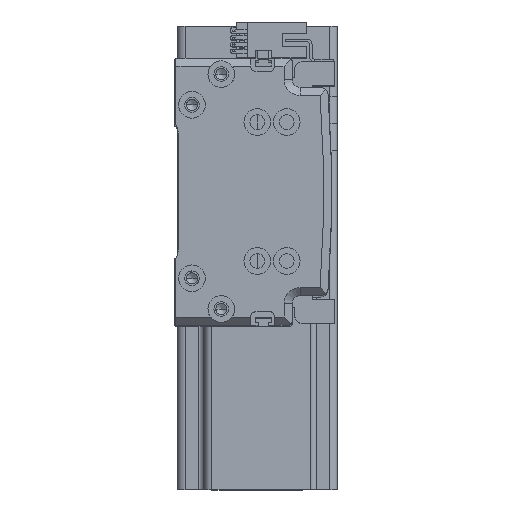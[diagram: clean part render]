
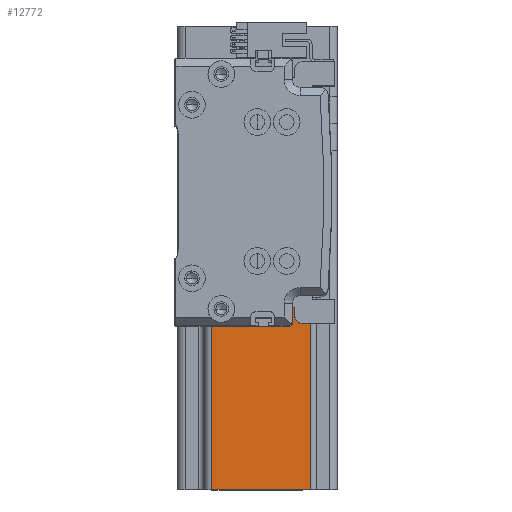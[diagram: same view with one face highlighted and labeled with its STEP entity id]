
A CAD part, top view. The second image highlights one B-rep face of the part: STEP entity #12772.
In plain terms, the highlighted planar face has unit normal (0, 0, 1) as drawn and (-1, 0, 0) by its records, which use the part's own axes.
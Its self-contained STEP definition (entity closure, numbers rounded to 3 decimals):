
#943 = EDGE_LOOP ( 'NONE', ( #35126, #3773, #40235, #42638, #19698, #16832, #11987, #19144 ) ) ;
#1574 = EDGE_CURVE ( 'NONE', #20450, #45647, #2723, .T. ) ;
#2452 = EDGE_CURVE ( 'NONE', #41303, #40428, #20360, .T. ) ;
#2723 = LINE ( 'NONE', #11466, #39284 ) ;
#3773 = ORIENTED_EDGE ( 'NONE', *, *, #30034, .T. ) ;
#4308 = PLANE ( 'NONE',  #18426 ) ;
#4468 = VECTOR ( 'NONE', #33380, 1000. ) ;
#4492 = VECTOR ( 'NONE', #18186, 1000. ) ;
#5618 = LINE ( 'NONE', #14632, #4492 ) ;
#6631 = EDGE_CURVE ( 'NONE', #38327, #42799, #13391, .T. ) ;
#7401 = VECTOR ( 'NONE', #41667, 1000. ) ;
#7478 = VERTEX_POINT ( 'NONE', #19487 ) ;
#10280 = DIRECTION ( 'NONE',  ( 0., -1., 0. ) ) ;
#10916 = VECTOR ( 'NONE', #40060, 1000. ) ;
#11367 = CARTESIAN_POINT ( 'NONE',  ( -30., 27., 0. ) ) ;
#11466 = CARTESIAN_POINT ( 'NONE',  ( -30., 30., 10. ) ) ;
#11611 = FACE_OUTER_BOUND ( 'NONE', #943, .T. ) ;
#11987 = ORIENTED_EDGE ( 'NONE', *, *, #39215, .T. ) ;
#12772 = ADVANCED_FACE ( 'NONE', ( #11611 ), #4308, .F. ) ;
#13391 = LINE ( 'NONE', #24314, #30986 ) ;
#13556 = CARTESIAN_POINT ( 'NONE',  ( -30., 20., 10. ) ) ;
#14339 = VECTOR ( 'NONE', #22767, 1000. ) ;
#14632 = CARTESIAN_POINT ( 'NONE',  ( -30., -30., 0. ) ) ;
#15027 = EDGE_CURVE ( 'NONE', #7478, #40428, #28189, .T. ) ;
#16832 = ORIENTED_EDGE ( 'NONE', *, *, #33266, .T. ) ;
#18186 = DIRECTION ( 'NONE',  ( 0., -1., 0. ) ) ;
#18426 = AXIS2_PLACEMENT_3D ( 'NONE', #18603, #43263, #22127 ) ;
#18603 = CARTESIAN_POINT ( 'NONE',  ( -30., -30., 137. ) ) ;
#18873 = VECTOR ( 'NONE', #19792, 1000. ) ;
#19144 = ORIENTED_EDGE ( 'NONE', *, *, #2452, .T. ) ;
#19340 = CARTESIAN_POINT ( 'NONE',  ( -30., 20., 10. ) ) ;
#19487 = CARTESIAN_POINT ( 'NONE',  ( -30., -17., 10. ) ) ;
#19698 = ORIENTED_EDGE ( 'NONE', *, *, #1574, .T. ) ;
#19792 = DIRECTION ( 'NONE',  ( 0., -1., 0. ) ) ;
#20360 = LINE ( 'NONE', #36508, #10916 ) ;
#20450 = VERTEX_POINT ( 'NONE', #19340 ) ;
#20631 = EDGE_CURVE ( 'NONE', #20450, #38327, #43853, .T. ) ;
#22127 = DIRECTION ( 'NONE',  ( 0., 0., -1. ) ) ;
#22455 = DIRECTION ( 'NONE',  ( 0., 1., 0. ) ) ;
#22767 = DIRECTION ( 'NONE',  ( 0., 0., 1. ) ) ;
#24296 = CARTESIAN_POINT ( 'NONE',  ( -30., 20., 137. ) ) ;
#24314 = CARTESIAN_POINT ( 'NONE',  ( -30., -30., 137. ) ) ;
#26308 = CARTESIAN_POINT ( 'NONE',  ( -30., 27., 137. ) ) ;
#26442 = CARTESIAN_POINT ( 'NONE',  ( -30., -17., 137. ) ) ;
#28189 = LINE ( 'NONE', #40880, #18873 ) ;
#29664 = CARTESIAN_POINT ( 'NONE',  ( -30., 27., 10. ) ) ;
#29896 = VERTEX_POINT ( 'NONE', #11367 ) ;
#30034 = EDGE_CURVE ( 'NONE', #7478, #42799, #43595, .T. ) ;
#30986 = VECTOR ( 'NONE', #10280, 1000. ) ;
#33266 = EDGE_CURVE ( 'NONE', #45647, #29896, #43168, .T. ) ;
#33380 = DIRECTION ( 'NONE',  ( 0., 0., -1. ) ) ;
#35126 = ORIENTED_EDGE ( 'NONE', *, *, #15027, .F. ) ;
#36508 = CARTESIAN_POINT ( 'NONE',  ( -30., -27., 137. ) ) ;
#38327 = VERTEX_POINT ( 'NONE', #24296 ) ;
#39215 = EDGE_CURVE ( 'NONE', #29896, #41303, #5618, .T. ) ;
#39284 = VECTOR ( 'NONE', #22455, 1000. ) ;
#40060 = DIRECTION ( 'NONE',  ( 0., 0., 1. ) ) ;
#40235 = ORIENTED_EDGE ( 'NONE', *, *, #6631, .F. ) ;
#40428 = VERTEX_POINT ( 'NONE', #45354 ) ;
#40880 = CARTESIAN_POINT ( 'NONE',  ( -30., -30., 10. ) ) ;
#41303 = VERTEX_POINT ( 'NONE', #41578 ) ;
#41578 = CARTESIAN_POINT ( 'NONE',  ( -30., -27., 0. ) ) ;
#41667 = DIRECTION ( 'NONE',  ( 0., 0., 1. ) ) ;
#42638 = ORIENTED_EDGE ( 'NONE', *, *, #20631, .F. ) ;
#42799 = VERTEX_POINT ( 'NONE', #26442 ) ;
#43168 = LINE ( 'NONE', #26308, #4468 ) ;
#43263 = DIRECTION ( 'NONE',  ( 1., 0., 0. ) ) ;
#43595 = LINE ( 'NONE', #43904, #14339 ) ;
#43853 = LINE ( 'NONE', #13556, #7401 ) ;
#43904 = CARTESIAN_POINT ( 'NONE',  ( -30., -17., 137. ) ) ;
#45354 = CARTESIAN_POINT ( 'NONE',  ( -30., -27., 10. ) ) ;
#45647 = VERTEX_POINT ( 'NONE', #29664 ) ;
